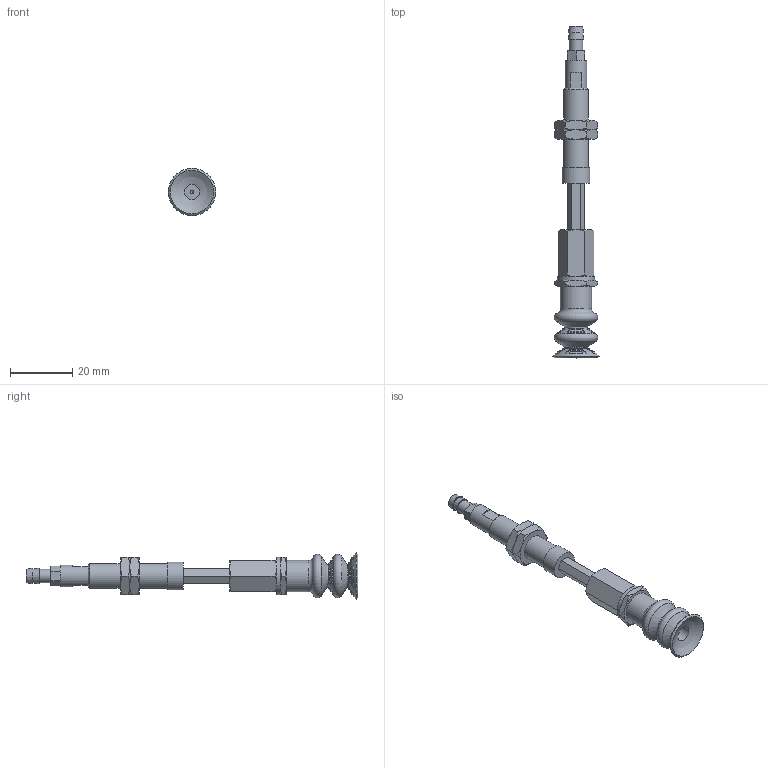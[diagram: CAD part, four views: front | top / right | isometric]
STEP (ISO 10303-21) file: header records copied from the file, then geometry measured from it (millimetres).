
FILE_DESCRIPTION(('STEP AP203'),'1');
FILE_NAME('-T.stp','2025-08-27T01:54:33',(' '),(' '),'Spatial InterOp 3D',' ',' ');
FILE_SCHEMA(('CONFIG_CONTROL_DESIGN'));
Length unit declared in the file: millimetre
Products named in the file (8): BNABPCTH-15-15-※-T; ADAPTER; NAPCTH-10-15-MBODY; Adapter_napc-15-T; Nut napc_h-15-15; NAPCTH-15-15-FBODY; BPCG-15-※; T
Assembly tree (8 placements, depth 2):
  BNABPCTH-15-15-※-T
    ADAPTER
    NAPCTH-10-15-MBODY
    Adapter_napc-15-T
    Nut napc_h-15-15  x2
    NAPCTH-15-15-FBODY
    BPCG-15-※
    T
Bounding box: 15.2 x 106.7 x 15.2 mm (x, y, z)
Volume: 6232.3 mm3; surface area: 6617.5 mm2
Topology: 8 solids, 8 shells, 248 faces, 722 edges, 465 vertices
Faces by surface type: plane 72, cone 66, sphere 58, torus 34, cylinder 18
Full cylindrical faces by diameter (mm): 1.25 x1, 3 x1, 4.134 x2, 4.3 x1, 5 x6, 7 x1, 7.188 x2, 8 x1, 9 x1, 10 x1, 12 x1
Entity records: 7125 total; most frequent: CARTESIAN_POINT 1990, DIRECTION 1028, ORIENTED_EDGE 880, AXIS2_PLACEMENT_3D 474, EDGE_CURVE 440, EDGE_LOOP 314, VERTEX_POINT 309, FACE_OUTER_BOUND 250
